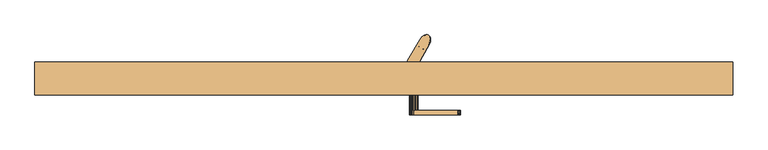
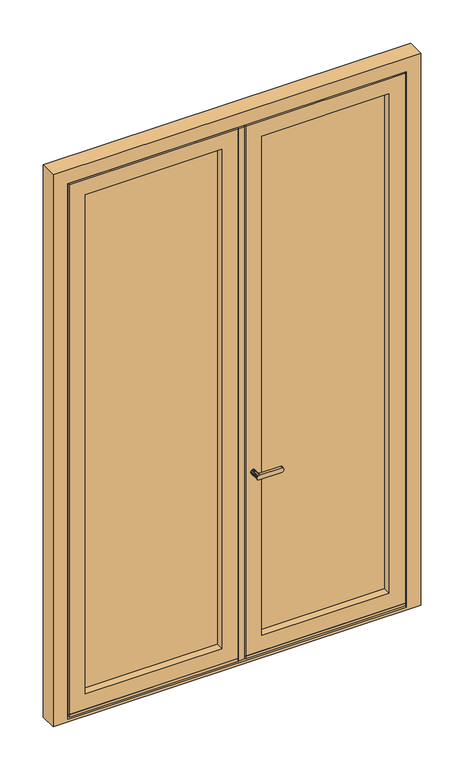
"""IFC4 building model written with IfcOpenShell, lengths in millimetres: door geometry, Porte vitrée bois - SAS ENTREE RDC 2x90."""

from ifc_helpers import new_model, si_unit, frame, origin, place, context, project, spatial, polyline, outline, extrude, faceted_brep, source, transform, mapped, element, save


def door_6c991e83(model_context):
    return source(origin(), model_context, "Body", "SolidModel", [
        faceted_brep([(997.0704527, 518.3, 3138.5), (997.0704527, 591.7, 3138.5), (997.0704527, 591.7, 178.5), (997.0704527, 518.3, 178.5), (976.5704527, 591.7, 3159.0), (976.5704527, 591.7, 158.0), (1876.5704527, 591.7, 158.0), (1876.5704527, 591.7, 3159.0), (1856.0704527, 591.7, 3138.5), (1856.0704527, 591.7, 178.5), (1856.0704527, 518.3, 178.5), (1856.0704527, 518.3, 3138.5), (1844.5704527, 518.3, 3127.0), (1844.5704527, 518.3, 190.0), (1008.5704527, 518.3, 190.0), (1008.5704527, 518.3, 3127.0), (1008.5704527, 510.0, 3127.0), (1008.5704527, 510.0, 190.0), (1844.5704527, 510.0, 190.0), (1844.5704527, 510.0, 3127.0), (1759.5704221, 510.0, 3041.9999695), (1759.5704221, 510.0, 275.0000305), (1093.5704832, 510.0, 275.0000305), (1093.5704832, 510.0, 3041.9999695), (1093.5704832, 551.0, 3041.9999695), (1093.5704832, 551.0, 275.0000305), (1759.5704221, 551.0, 275.0000305), (1774.5704527, 551.0, 3057.0), (1774.5704527, 551.0, 260.0), (1078.5704527, 551.0, 260.0), (1078.5704527, 551.0, 3057.0), (1759.5704221, 551.0, 3041.9999695), (1078.5704527, 589.0, 3057.0), (1078.5704527, 589.0, 260.0), (1774.5704527, 589.0, 260.0), (1774.5704527, 589.0, 3057.0), (1757.5704527, 589.0, 3040.0), (1757.5704527, 589.0, 277.0), (1095.5704527, 589.0, 277.0), (1095.5704527, 589.0, 3040.0), (1095.5704527, 600.0, 3040.0), (1095.5704527, 600.0, 277.0), (1757.5704527, 600.0, 277.0), (1876.5704527, 600.0, 3159.0), (1876.5704527, 600.0, 158.0), (976.5704527, 600.0, 158.0), (976.5704527, 600.0, 3159.0), (1757.5704527, 600.0, 3040.0)], [[[0, 1, 2, 3]], [[4, 5, 6, 7], [8, 9, 2, 1]], [[3, 2, 9, 10]], [[0, 3, 10, 11], [12, 13, 14, 15]], [[16, 15, 14, 17]], [[17, 14, 13, 18]], [[16, 17, 18, 19], [20, 21, 22, 23]], [[24, 23, 22, 25]], [[25, 22, 21, 26]], [[27, 28, 29, 30], [24, 25, 26, 31]], [[32, 30, 29, 33]], [[33, 29, 28, 34]], [[32, 33, 34, 35], [36, 37, 38, 39]], [[40, 39, 38, 41]], [[41, 38, 37, 42]], [[43, 44, 45, 46], [40, 41, 42, 47]], [[4, 46, 45, 5]], [[5, 45, 44, 6]], [[10, 9, 8, 11]], [[18, 13, 12, 19]], [[26, 21, 20, 31]], [[34, 28, 27, 35]], [[42, 37, 36, 47]], [[6, 44, 43, 7]], [[11, 8, 1, 0]], [[19, 12, 15, 16]], [[31, 20, 23, 24]], [[35, 27, 30, 32]], [[47, 36, 39, 40]], [[7, 43, 46, 4]]]),
        faceted_brep([(1063.5265531, 600.0, 243.5), (1063.5265531, 604.0, 243.5), (1029.6143522, 604.0, 243.5), (1029.6143522, 600.0, 243.5), (1063.5265531, 604.0, 213.5), (1029.6143522, 604.0, 213.5), (1063.5265531, 600.0, 209.5), (1063.5265531, 604.0, 209.5), (1029.6143522, 600.0, 209.5), (1029.6143522, 604.0, 209.5), (1089.9094475, 672.5301271, 213.5), (1087.3502106, 674.6325794, 213.5), (1084.2498152, 675.7977182, 213.5), (1080.7637281, 675.9671186, 213.5), (1077.0667564, 675.1322861, 213.5), (1073.3442817, 673.3350828, 213.5), (1069.7829643, 670.6656279, 213.5), (1066.5613838, 667.2577791, 213.5), (1063.8410835, 663.2824201, 213.5), (1089.2752383, 648.5980002, 213.5), (1091.3578518, 652.9415279, 213.5), (1092.698347, 657.4354221, 213.5), (1093.2295057, 661.8543403, 213.5), (1092.9246936, 665.9766994, 213.5), (1091.7991951, 669.5957871, 213.5), (1063.8410835, 663.2824201, 209.5), (1066.5613838, 667.2577791, 209.5), (1069.7829643, 670.6656279, 209.5), (1073.3442817, 673.3350828, 209.5), (1077.0667564, 675.1322861, 209.5), (1080.7637281, 675.9671186, 209.5), (1084.2498152, 675.7977182, 209.5), (1087.3502106, 674.6325794, 209.5), (1089.9094475, 672.5301271, 209.5), (1091.7991951, 669.5957871, 209.5), (1092.9246936, 665.9766994, 209.5), (1093.2295057, 661.8543403, 209.5), (1092.698347, 657.4354221, 209.5), (1091.3578518, 652.9415279, 209.5), (1089.2752383, 648.5980002, 209.5), (1063.8410835, 663.2824201, 211.9099144), (1089.2752383, 648.5980002, 211.0900853), (1090.9447816, 671.1586471, 211.5), (1078.9301579, 675.6737832, 211.5), (1093.2150104, 661.4468941, 211.5)], [[[0, 1, 2, 3]], [[4, 5, 2, 1]], [[6, 7, 4, 1, 0]], [[8, 6, 0, 3]], [[9, 8, 3, 2, 5]], [[10, 11, 12, 13, 14, 15, 16, 17, 18, 5, 4, 19, 20, 21, 22, 23, 24]], [[6, 8, 9, 25, 26, 27, 28, 29, 30, 31, 32, 33, 34, 35, 36, 37, 38, 39, 7]], [[9, 5, 18, 40, 25]], [[7, 39, 41, 19, 4]], [[40, 18, 17]], [[26, 25, 40]], [[24, 42, 10]], [[43, 27, 40]], [[40, 27, 26]], [[43, 30, 29]], [[15, 43, 16]], [[13, 43, 14]], [[32, 31, 43]], [[41, 39, 38]], [[20, 19, 41]], [[28, 43, 29]], [[17, 16, 40]], [[31, 30, 43]], [[35, 34, 42]], [[28, 27, 43]], [[20, 41, 44]], [[15, 14, 43]], [[13, 12, 43]], [[40, 16, 43]], [[11, 43, 12]], [[32, 43, 42]], [[34, 33, 42]], [[35, 44, 36]], [[38, 37, 41]], [[37, 44, 41]], [[36, 44, 37]], [[44, 21, 20]], [[42, 43, 11]], [[32, 42, 33]], [[42, 11, 10]], [[23, 42, 24]], [[44, 42, 23]], [[35, 42, 44]], [[23, 22, 44]], [[22, 21, 44]]]),
        faceted_brep([(168.0000305, 551.0, 3041.9999695), (168.0000305, 510.0, 3041.9999695), (168.0000305, 510.0, 275.0000305), (168.0000305, 551.0, 275.0000305), (83.0, 510.0, 3127.0), (83.0, 510.0, 190.0), (969.5704527, 510.0, 190.0), (969.5704527, 510.0, 3127.0), (884.5704221, 510.0, 3041.9999695), (884.5704221, 510.0, 275.0000305), (884.5704221, 551.0, 275.0000305), (153.0, 551.0, 260.0), (153.0, 551.0, 3057.0), (899.5704527, 551.0, 3057.0), (899.5704527, 551.0, 260.0), (884.5704221, 551.0, 3041.9999695), (153.0, 589.0, 3057.0), (153.0, 589.0, 260.0), (899.5704527, 589.0, 260.0), (899.5704527, 589.0, 3057.0), (170.0, 589.0, 277.0), (170.0, 589.0, 3040.0), (882.5704527, 589.0, 3040.0), (882.5704527, 589.0, 277.0), (170.0, 600.0, 3040.0), (170.0, 600.0, 277.0), (882.5704527, 600.0, 277.0), (51.0, 600.0, 158.0), (51.0, 600.0, 3159.0), (969.5704527, 600.0, 3159.0), (969.5704527, 600.0, 158.0), (882.5704527, 600.0, 3040.0), (51.0, 591.7, 3159.0), (51.0, 591.7, 158.0), (969.5704527, 591.7, 158.0), (969.5704527, 591.7, 178.5), (71.5, 591.7, 178.5), (71.5, 591.7, 3138.5), (969.5704527, 591.7, 3138.5), (969.5704527, 591.7, 3159.0), (71.5, 518.3, 3138.5), (71.5, 518.3, 178.5), (981.0704527, 591.7, 178.5), (981.0704527, 518.3, 178.5), (981.0704527, 518.3, 3138.5), (83.0, 518.3, 190.0), (83.0, 518.3, 3127.0), (969.5704527, 518.3, 3127.0), (969.5704527, 518.3, 190.0), (981.0704527, 591.7, 3138.5)], [[[0, 1, 2, 3]], [[4, 5, 6, 7], [2, 1, 8, 9]], [[3, 2, 9, 10]], [[11, 12, 13, 14], [0, 3, 10, 15]], [[16, 12, 11, 17]], [[17, 11, 14, 18]], [[16, 17, 18, 19], [20, 21, 22, 23]], [[24, 21, 20, 25]], [[25, 20, 23, 26]], [[27, 28, 29, 30], [24, 25, 26, 31]], [[32, 28, 27, 33]], [[33, 27, 30, 34]], [[32, 33, 34, 35, 36, 37, 38, 39]], [[40, 37, 36, 41]], [[41, 36, 35, 42, 43]], [[40, 41, 43, 44], [45, 46, 47, 48]], [[4, 46, 45, 5]], [[5, 45, 48, 6]], [[10, 9, 8, 15]], [[18, 14, 13, 19]], [[26, 23, 22, 31]], [[43, 42, 49, 44]], [[1, 0, 15, 8]], [[12, 16, 19, 13]], [[21, 24, 31, 22]], [[28, 32, 39, 29]], [[37, 40, 44, 49, 38]], [[46, 4, 7, 47]], [[38, 35, 34, 30, 29, 39]], [[35, 38, 49, 42]], [[6, 48, 47, 7]]]),
        faceted_brep([(1851.5704527, 510.0, 3134.0), (1851.5704527, 518.3, 3134.0), (1851.5704527, 518.3, 167.8651688), (1851.5704527, 510.0, 165.0072496), (76.0, 518.3, 3134.0), (76.0, 518.3, 167.8651688), (55.5, 518.3, 167.8651688), (55.5, 518.3, 3154.5), (1872.0704527, 518.3, 3154.5), (1872.0704527, 518.3, 167.8651688), (1872.0704527, 591.7, 3154.5), (1872.0704527, 591.7, 164.3), (1872.0704527, 532.0, 164.3), (1872.0704527, 532.0, 170.0), (1872.0704527, 524.5, 170.0), (1883.5704527, 599.9993365, 150.0), (1883.5704527, 591.7, 150.0), (1883.5704527, 591.7, 3166.0), (1883.5704527, 599.9993365, 3166.0), (1927.5704527, 599.9993365, 150.0), (44.0, 599.9993365, 3166.0), (44.0, 599.9993365, 150.0), (0.0, 599.9993365, 150.0), (0.0, 599.9993365, 3210.0), (1927.5704527, 599.9993365, 3210.0), (76.0, 510.0, 3134.0), (76.0, 510.0, 165.0072496), (44.0, 591.7, 3166.0), (44.0, 591.7, 150.0), (55.5, 591.7, 3154.5), (55.5, 524.5, 170.0), (55.5, 532.0, 170.0), (55.5, 532.0, 164.3), (55.5, 591.7, 164.3), (0.0, 510.0, 3210.0), (1927.5704527, 510.0, 3210.0), (1927.5704527, 510.0, 150.0), (0.0, 510.0, 150.0)], [[[0, 1, 2, 3]], [[1, 4, 5, 6, 7, 8, 9, 2]], [[8, 10, 11, 12, 13, 14, 9]], [[15, 16, 17, 18]], [[19, 15, 18, 20, 21, 22, 23, 24]], [[4, 25, 26, 5]], [[20, 27, 28, 21]], [[29, 7, 6, 30, 31, 32, 33]], [[25, 4, 1, 0]], [[27, 20, 18, 17]], [[23, 34, 35, 24]], [[8, 7, 29, 10]], [[19, 24, 35, 36]], [[34, 23, 22, 37]], [[35, 34, 37, 36], [25, 0, 3, 26]], [[16, 15, 19, 36, 37, 22, 21, 28]], [[14, 30, 6, 5, 26, 3, 2, 9]], [[27, 17, 16, 28], [11, 10, 29, 33]], [[32, 12, 11, 33]], [[12, 32, 31, 13]], [[13, 31, 30, 14]]]),
        faceted_brep([(1029.6143522, 600.0, 3073.5), (1029.6143522, 604.0, 3073.5), (1063.5265531, 604.0, 3073.5), (1063.5265531, 600.0, 3073.5), (1029.6143522, 604.0, 3103.5), (1063.5265531, 604.0, 3103.5), (1063.5265531, 604.0, 3107.5), (1063.5265531, 600.0, 3107.5), (1029.6143522, 600.0, 3107.5), (1029.6143522, 604.0, 3107.5), (1063.8410862, 663.2824248, 3103.5), (1066.5613869, 667.257783, 3103.5), (1069.7829676, 670.6656309, 3103.5), (1073.3442849, 673.3350848, 3103.5), (1077.0667594, 675.1322872, 3103.5), (1080.7637307, 675.9671188, 3103.5), (1084.2498173, 675.7977178, 3103.5), (1087.3502122, 674.6325784, 3103.5), (1089.9094486, 672.5301259, 3103.5), (1091.7991957, 669.5957857, 3103.5), (1092.9246939, 665.9766982, 3103.5), (1093.2295057, 661.8543393, 3103.5), (1092.6983468, 657.4354214, 3103.5), (1091.3578516, 652.9415275, 3103.5), (1089.2752383, 648.5980002, 3103.5), (1089.9094486, 672.5301259, 3107.5), (1087.3502122, 674.6325784, 3107.5), (1084.2498173, 675.7977178, 3107.5), (1080.7637307, 675.9671188, 3107.5), (1077.0667594, 675.1322872, 3107.5), (1073.3442849, 673.3350848, 3107.5), (1069.7829676, 670.6656309, 3107.5), (1066.5613869, 667.257783, 3107.5), (1063.8410862, 663.2824248, 3107.5), (1089.2752383, 648.5980002, 3107.5), (1091.3578516, 652.9415275, 3107.5), (1092.6983468, 657.4354214, 3107.5), (1093.2295057, 661.8543393, 3107.5), (1092.9246939, 665.9766982, 3107.5), (1091.7991957, 669.5957857, 3107.5), (1063.8410862, 663.2824248, 3105.9099144), (1089.2752383, 648.5980002, 3105.0900854), (1090.9447824, 671.1586458, 3105.5), (1078.9301608, 675.6737838, 3105.5), (1093.2150103, 661.4468931, 3105.5)], [[[0, 1, 2, 3]], [[2, 1, 4, 5]], [[3, 2, 5, 6, 7]], [[0, 3, 7, 8]], [[1, 0, 8, 9, 4]], [[5, 4, 10, 11, 12, 13, 14, 15, 16, 17, 18, 19, 20, 21, 22, 23, 24]], [[25, 26, 27, 28, 29, 30, 31, 32, 33, 9, 8, 7, 6, 34, 35, 36, 37, 38, 39]], [[4, 9, 33, 40, 10]], [[5, 24, 41, 34, 6]], [[40, 33, 32]], [[11, 10, 40]], [[39, 42, 25]], [[43, 12, 40]], [[40, 12, 11]], [[43, 15, 14]], [[30, 43, 31]], [[28, 43, 29]], [[17, 16, 43]], [[41, 24, 23]], [[35, 34, 41]], [[13, 43, 14]], [[32, 31, 40]], [[16, 15, 43]], [[20, 19, 42]], [[13, 12, 43]], [[35, 41, 44]], [[30, 29, 43]], [[28, 27, 43]], [[40, 31, 43]], [[26, 43, 27]], [[17, 43, 42]], [[19, 18, 42]], [[20, 44, 21]], [[23, 22, 41]], [[22, 44, 41]], [[21, 44, 22]], [[44, 36, 35]], [[42, 43, 26]], [[17, 42, 18]], [[42, 26, 25]], [[38, 42, 39]], [[44, 42, 38]], [[20, 42, 44]], [[38, 37, 44]], [[37, 36, 44]]]),
        extrude(outline(polyline([(1078.5704527, 589.0), (1774.5704527, 589.0), (1774.5704527, 551.0), (1078.5704527, 551.0), (1078.5704527, 589.0)])), frame((0.0, 0.0, 260.0), z_axis=(0.0, 0.0, 1.0), x_axis=(1.0, 0.0, 0.0)), (0.0, 0.0, 1.0), 2797.0),
        faceted_brep([(1091.7991957, 669.5957857, 3103.5), (1089.9094486, 672.5301259, 3103.5), (1087.3502122, 674.6325784, 3103.5), (1084.2498173, 675.7977178, 3103.5), (1080.7637307, 675.9671188, 3103.5), (1077.0667594, 675.1322872, 3103.5), (1073.3442849, 673.3350848, 3103.5), (1069.7829676, 670.6656309, 3103.5), (1066.5613869, 667.257783, 3103.5), (1063.8410862, 663.2824248, 3103.5), (1061.7584728, 658.9388975, 3103.5), (1060.4179777, 654.4450036, 3103.5), (1059.8868187, 650.0260857, 3103.5), (1060.1916306, 645.9037268, 3103.5), (1061.3171287, 642.2846393, 3103.5), (1063.2068759, 639.3502991, 3103.5), (1065.7661123, 637.2478466, 3103.5), (1068.8665071, 636.0827073, 3103.5), (1072.3525937, 635.9133062, 3103.5), (1076.049565, 636.7481378, 3103.5), (1079.7720396, 638.5453402, 3103.5), (1083.3333568, 641.2147941, 3103.5), (1086.5549376, 644.622642, 3103.5), (1089.2752383, 648.5980002, 3103.5), (1091.3578516, 652.9415275, 3103.5), (1092.6983468, 657.4354214, 3103.5), (1093.2295057, 661.8543393, 3103.5), (1092.9246939, 665.9766982, 3103.5), (1068.8665071, 636.0827073, 213.5), (1065.7661123, 637.2478466, 213.5), (1063.2068759, 639.3502991, 213.5), (1061.3171287, 642.2846393, 213.5), (1060.1916306, 645.9037268, 213.5), (1059.8868187, 650.0260857, 213.5), (1060.4179777, 654.4450036, 213.5), (1061.7584728, 658.9388975, 213.5), (1063.8410862, 663.2824248, 213.5), (1066.5613869, 667.257783, 213.5), (1069.7829676, 670.6656309, 213.5), (1073.3442849, 673.3350848, 213.5), (1077.0667594, 675.1322872, 213.5), (1080.7637307, 675.9671188, 213.5), (1084.2498173, 675.7977178, 213.5), (1087.3502122, 674.6325784, 213.5), (1089.9094486, 672.5301259, 213.5), (1091.7991957, 669.5957857, 213.5), (1092.9246939, 665.9766982, 213.5), (1093.2295057, 661.8543393, 213.5), (1092.6983468, 657.4354214, 213.5), (1091.3578516, 652.9415275, 213.5), (1089.2752383, 648.5980002, 213.5), (1086.5549376, 644.622642, 213.5), (1083.3333568, 641.2147941, 213.5), (1079.7720396, 638.5453402, 213.5), (1076.049565, 636.7481378, 213.5), (1072.3525937, 635.9133062, 213.5), (1087.1209854, 674.7609343, 3039.7612202), (1092.4619452, 667.8611962, 306.3237695), (1089.2752383, 648.5980002, 304.783489), (1078.9301597, 675.6737836, 3010.676228), (1078.9301582, 675.6737832, 297.4293988), (1085.8584944, 675.3371113, 368.0172447), (1073.8975018, 673.6633417, 369.3240477), (1080.3292739, 675.9198052, 446.6944318), (1088.7062148, 673.6929778, 2948.98274), (1093.2371765, 662.4975723, 2947.6759605), (1091.9806862, 669.1834463, 2875.4794892), (1086.2481362, 675.18144, 2387.972511), (1074.4721885, 673.9813242, 2433.366327), (1086.1883162, 675.2065607, 2478.1094389), (1089.2752383, 648.5980002, 3012.216511), (1063.8410862, 663.2824248, 3012.2165139), (1063.8410862, 663.2824248, 304.7834917), (1076.4602559, 674.90456, 2922.0327645), (1089.2752383, 648.5980002, 396.066978), (1093.0307284, 665.3375828, 394.9672499), (1087.5759854, 674.4982397, 277.2387736), (1077.0266332, 675.1179974, 1435.6433105), (1063.8410862, 663.2824248, 1400.1853585), (1063.8410862, 663.2824248, 1479.816978), (1063.8410862, 663.2824248, 1491.4688445), (1085.5101202, 675.4609039, 526.5775533), (1090.3785717, 671.9617113, 459.8390978), (1075.2369264, 674.3686784, 2789.8337304), (1085.0821002, 675.5941609, 2731.5722903), (1074.3099418, 673.8939051, 2701.4632106), (1092.4619444, 667.8611986, 3019.5705949), (1063.8410862, 663.2824248, 943.7679112), (1074.9719462, 674.2390529, 991.9541054), (1075.7221037, 674.5934845, 898.1262183), (1063.8410862, 663.2824248, 2920.9330222), (1063.8410862, 663.2824248, 2746.1339598), (1063.8410862, 663.2824248, 2829.649533), (1063.8410862, 663.2824248, 2833.533491), (1091.0038999, 671.0659174, 753.748835), (1093.2104353, 663.5037097, 806.8427277), (1093.2054769, 661.2518328, 715.5592395), (1087.8126466, 674.3485788, 2283.8905959), (1090.0835429, 672.3281065, 2186.2171541), (1075.8077605, 674.6314948, 2242.6546305), (1076.4110471, 674.8849811, 1613.8704529), (1088.4363082, 673.9071638, 1569.1585234), (1076.8220603, 675.0434335, 1517.9321883), (1093.1769016, 664.0285127, 2607.3749737), (1086.6511666, 675.0001544, 2567.4509478), (1087.1020652, 674.771178, 2656.7924568), (1088.4625465, 673.8869902, 938.4578574), (1087.3502122, 674.6325784, 1035.0514496), (1093.2362974, 662.2320884, 1881.8538044), (1089.2752383, 648.5980002, 1926.524533), (1089.2752383, 648.5980002, 1852.7188463), (1089.2752383, 648.5980002, 1837.183022), (1075.6623682, 674.5666791, 1085.9473652), (1078.3011062, 675.517869, 1168.8726905), (1088.5387979, 673.8275832, 1125.837811), (1088.6286842, 673.7560369, 1300.8775569), (1093.2283694, 663.0537925, 1256.4632408), (1088.4850519, 673.8695777, 1212.7139165), (1088.4363083, 673.9071638, 1658.5823811), (1087.8126467, 674.3485788, 1747.8415416), (1093.2162113, 663.3830403, 1705.6035919), (1093.2372442, 662.4091556, 2149.8783316), (1089.2752383, 648.5980002, 2194.5490659), (1089.2752383, 648.5980002, 2120.7433801), (1089.2752383, 648.5980002, 2105.2075549), (1074.6748041, 674.0879095, 1899.8226875), (1074.4624677, 673.9761385, 1808.0481216), (1063.8410862, 663.2824248, 1852.7188452), (1075.0361549, 674.2709086, 2612.1217017), (1093.2339742, 662.8128215, 1527.5583067), (1089.2752383, 648.5980002, 1569.158489), (1089.2752383, 648.5980002, 1491.4688485), (1089.2752383, 648.5980002, 1479.816978), (1086.895396, 674.879689, 1844.8045559), (1093.170584, 664.1083165, 1797.4267243), (1074.4655794, 673.9777992, 2522.7801928), (1063.8410862, 663.2824248, 2478.1094254), (1084.2135006, 675.8050118, 2868.0801076), (1088.5717657, 673.8015344, 2802.6217509), (1087.5327094, 674.5246154, 1475.3268617), (1063.8410862, 663.2824248, 852.4844195), (1089.2752383, 648.5980002, 1301.133956), (1089.2752383, 648.5980002, 1217.6183797), (1089.2752383, 648.5980002, 1211.7924451), (1074.9612481, 674.2337175, 1718.7066128), (1063.8410862, 663.2824248, 1763.3773338), (1093.2128573, 663.4549077, 2418.8738478), (1093.2115617, 663.481305, 2327.1169999), (1076.1879995, 674.7941617, 1263.2601666), (1063.8410862, 663.2824248, 1217.618375), (1063.8410862, 663.2824248, 1301.133956), (1063.8410862, 663.2824248, 1308.9018668), (1089.2752383, 648.5980002, 2373.2320879), (1063.8410862, 663.2824248, 1582.7523306), (1063.8410862, 663.2824248, 1658.5), (1063.8410862, 663.2824248, 1674.0358223), (1093.1881572, 663.8747832, 1077.7802226), (1093.225349, 663.1502613, 1167.1147796), (1093.212149, 663.4694262, 1349.0545448), (1093.1594418, 664.240021, 2510.1573349), (1089.2752383, 648.5980002, 2464.5155769), (1073.6679907, 673.5298181, 2076.0726483), (1075.3257706, 674.4110552, 1991.6458261), (1063.8410862, 663.2824248, 2031.4018682), (1089.8475711, 672.5995764, 682.8588012), (1089.2752383, 648.5980002, 578.633956), (1093.1612269, 664.219614, 532.9922607), (1093.2247016, 663.1692553, 621.3637247), (1087.5943164, 674.4869765, 1390.4755053), (1093.1421427, 664.4263296, 1441.7482187), (1093.1846099, 660.907579, 460.8624964), (1089.2752383, 648.5980002, 487.350467), (1074.2396743, 673.8554716, 511.4648929), (1070.6098057, 671.3765494, 453.7451278), (1088.2994022, 674.0102415, 603.806908), (1089.2752383, 648.5980002, 669.9174451), (1087.3502121, 674.6325785, 841.8642654), (1093.2332204, 662.8535427, 898.126215), (1077.2057235, 675.1809238, 659.1547405), (1072.1308721, 672.5368909, 806.8427306), (1073.9355212, 673.6850987, 2856.6324745), (1077.8905671, 675.4012707, 583.1880996), (1063.8410862, 663.2824248, 2656.7924484), (1063.8410862, 663.2824248, 2738.366044), (1093.149763, 664.3466495, 2699.940621), (1092.8753504, 658.3587256, 2866.1656853), (1093.234926, 662.7539259, 2807.3986574), (1063.8410862, 663.2824248, 2567.4509369), (1063.8410862, 663.2824248, 2647.0825549), (1063.8410862, 663.2824248, 2388.767914), (1063.8410862, 663.2824248, 2464.5155769), (1075.3191999, 674.4079398, 2334.4675158), (1063.8410862, 663.2824248, 2210.0848911), (1063.8410862, 663.2824248, 2283.8905769), (1063.8410862, 663.2824248, 2299.4264025), (1089.2752383, 648.5980002, 2388.7679138), (1089.2752383, 648.5980002, 2555.7990659), (1089.2752383, 648.5980002, 2478.1094232), (1089.2752383, 648.5980002, 2738.366044), (1089.2752383, 648.5980002, 2656.7924475), (1089.2752383, 648.5980002, 2647.0825549), (1093.1783644, 664.0094265, 2235.3144708), (1089.2752383, 648.5980002, 2283.8905769), (1090.5492227, 671.7345832, 2121.0154935), (1063.8410862, 663.2824248, 578.6339556), (1071.8864186, 672.3627096, 2165.4141571), (1063.8410862, 663.2824248, 2120.7433796), (1063.8410862, 663.2824248, 2194.5490659), (1092.2974639, 668.3594205, 2060.5368228), (1089.2752383, 648.5980002, 2031.4018707), (1089.2752383, 648.5980002, 2015.866044), (1093.199264, 663.7039869, 1971.1953135), (1084.5993621, 675.7208451, 2041.9850456), (1063.8410862, 663.2824248, 2555.7990659), (1089.2752383, 648.5980002, 2210.0848951), (1089.2752383, 648.5980002, 2299.4264044), (1089.2752383, 648.5980002, 1033.1094231), (1093.225326, 663.1509445, 988.4387133), (1089.2752383, 648.5980002, 2567.4509325), (1063.8410862, 663.2824248, 396.0669778), (1089.2752383, 648.5980002, 2829.649533), (1089.2752383, 648.5980002, 2920.933022), (1089.2752383, 648.5980002, 2746.1339569), (1089.2752383, 648.5980002, 761.2009341), (1082.935426, 675.9831179, 2138.6482318), (1071.3615587, 671.9730561, 719.6075288), (1063.8410862, 663.2824248, 669.9174473), (1081.0963306, 675.9937381, 754.3114731), (1063.8410862, 663.2824248, 761.2009334), (1089.2752383, 648.5980002, 852.4844231), (1089.2752383, 648.5980002, 943.7679121), (1063.8410862, 663.2824248, 1035.0514029), (1063.8410862, 663.2824248, 1126.334889), (1063.8410862, 663.2824248, 1211.7924451), (1074.7954478, 674.1500152, 1354.5436536), (1063.8410862, 663.2824248, 1390.475467), (1089.2752383, 648.5980002, 1122.4509341), (1089.2752383, 648.5980002, 1035.0514006), (1063.8410862, 663.2824248, 1122.4509341), (1063.8410862, 663.2824248, 1033.1094231), (1089.2752383, 648.5980002, 1126.3348901), (1089.2752383, 648.5980002, 1400.1853589), (1089.2752383, 648.5980002, 1390.475467), (1093.2256812, 663.1403125, 1613.8292772), (1089.2752383, 648.5980002, 1308.9018693), (1089.2752383, 648.5980002, 1658.5), (1089.2752383, 648.5980002, 1582.752338), (1089.2752383, 648.5980002, 1763.377337), (1089.2752383, 648.5980002, 1747.841511), (1063.8410862, 663.2824248, 1569.158489), (1089.2752383, 648.5980002, 1942.0603613), (1063.8410862, 663.2824248, 1747.841511), (1086.8730441, 674.891059, 1942.0603856), (1063.8410862, 663.2824248, 1837.183022), (1063.8410862, 663.2824248, 1942.0603567), (1063.8410862, 663.2824248, 2105.2075549), (1089.2752383, 648.5980002, 1674.0358276), (1063.8410862, 663.2824248, 2015.866044), (1063.8410862, 663.2824248, 1926.524533), (1063.8410862, 663.2824248, 487.3504639), (1063.8410862, 663.2824248, 2373.2320879), (1089.2752383, 648.5980002, 2833.5334917), (1065.9953391, 637.1194907, 3039.7612202), (1060.6543793, 644.0192288, 306.3237695), (1074.1861648, 636.2066414, 3010.676228), (1074.1861662, 636.2066418, 297.4293988), (1067.2578301, 636.5433137, 368.0172447), (1079.2188227, 638.2170833, 369.3240477), (1072.7870506, 635.9606198, 446.6944318), (1064.4101097, 638.1874472, 2948.98274), (1059.8791479, 649.3828527, 2947.6759605), (1061.1356383, 642.6969787, 2875.4794892), (1066.8681882, 636.698985, 2387.972511), (1078.644136, 637.8991008, 2433.366327), (1066.9280082, 636.6738643, 2478.1094389), (1076.6560685, 636.975865, 2922.0327645), (1060.0855961, 646.5428422, 394.9672499), (1065.5403391, 637.3821853, 277.2387736), (1076.0896912, 636.7624276, 1435.6433105), (1067.6062043, 636.4195211, 526.5775533), (1062.7377527, 639.9187137, 459.8390978), (1077.8793981, 637.5117466, 2789.8337304), (1068.0342243, 636.2862641, 2731.5722903), (1078.8063827, 637.9865199, 2701.4632106), (1060.65438, 644.0192264, 3019.5705949), (1078.1443782, 637.6413721, 991.9541054), (1077.3942208, 637.2869405, 898.1262183), (1062.1124246, 640.8145076, 753.748835), (1059.9058892, 648.3767153, 806.8427277), (1059.9108476, 650.6285922, 715.5592395), (1065.3036778, 637.5318462, 2283.8905959), (1063.0327816, 639.5523186, 2186.2171541), (1077.308564, 637.2489302, 2242.6546305), (1076.7052774, 636.9954439, 1613.8704529), (1064.6800163, 637.9732612, 1569.1585234), (1076.2942642, 636.8369915, 1517.9321883), (1059.9394228, 647.8519123, 2607.3749737), (1066.4651579, 636.8802706, 2567.4509478), (1066.0142593, 637.109247, 2656.7924568), (1064.653778, 637.9934348, 938.4578574), (1065.7661122, 637.2478466, 1035.0514496), (1059.880027, 649.6483366, 1881.8538044), (1077.4539563, 637.3137459, 1085.9473652), (1074.8152182, 636.362556, 1168.8726905), (1064.5775265, 638.0528418, 1125.837811), (1064.4876403, 638.1243881, 1300.8775569), (1059.8879551, 648.8266325, 1256.4632408), (1064.6312726, 638.0108473, 1212.7139165), (1064.6800162, 637.9732612, 1658.5823811), (1065.3036778, 637.5318462, 1747.8415416), (1059.9001132, 648.4973847, 1705.6035919), (1059.8790802, 649.4712695, 2149.8783316), (1078.4415204, 637.7925155, 1899.8226875), (1078.6538568, 637.9042865, 1808.0481216), (1078.0801695, 637.6095164, 2612.1217017), (1059.8823503, 649.0676035, 1527.5583067), (1066.2209284, 637.000736, 1844.8045559), (1059.9457405, 647.7721085, 1797.4267243), (1078.650745, 637.9026258, 2522.7801928), (1068.9028238, 636.0754132, 2868.0801076), (1064.5445587, 638.0788906, 2802.6217509), (1065.5836151, 637.3558096, 1475.3268617), (1078.1550763, 637.6467075, 1718.7066128), (1059.9034672, 648.4255173, 2418.8738478), (1059.9047627, 648.39912, 2327.1169999), (1076.928325, 637.0862633, 1263.2601666), (1059.9281672, 648.0056418, 1077.7802226), (1059.8909754, 648.7301637, 1167.1147796), (1059.9041755, 648.4109988, 1349.0545448), (1059.9568826, 647.640404, 2510.1573349), (1079.4483337, 638.3506069, 2076.0726483), (1077.7905539, 637.4693698, 1991.6458261), (1063.2687534, 639.2808486, 682.8588012), (1059.9550976, 647.660811, 532.9922607), (1059.8916228, 648.7111697, 621.3637247), (1065.5220081, 637.3934485, 1390.4755053), (1059.9741817, 647.4540954, 1441.7482187), (1059.9317145, 650.972846, 460.8624964), (1078.8766501, 638.0249534, 511.4648929), (1082.5065187, 640.5038756, 453.7451278), (1064.8169223, 637.8701835, 603.806908), (1065.7661124, 637.2478465, 841.8642654), (1059.8831041, 649.0268823, 898.126215), (1075.910601, 636.6995012, 659.1547405), (1080.9854524, 639.3435341, 806.8427306), (1079.1808033, 638.1953263, 2856.6324745), (1075.2257574, 636.4791543, 583.1880996), (1059.9665615, 647.5337755, 2699.940621), (1060.240974, 653.5216994, 2866.1656853), (1059.8813985, 649.1264991, 2807.3986574), (1077.7971246, 637.4724852, 2334.4675158), (1059.9379601, 647.8709985, 2235.3144708), (1062.5671018, 640.1458418, 2121.0154935), (1081.2299058, 639.5177154, 2165.4141571), (1060.8188606, 643.5210045, 2060.5368228), (1059.9170605, 648.1764381, 1971.1953135), (1068.5169624, 636.1595799, 2041.9850456), (1059.8909984, 648.7294805, 988.4387133), (1070.1808985, 635.8973071, 2138.6482318), (1081.7547658, 639.9073689, 719.6075288), (1072.0199938, 635.8866869, 754.3114731), (1078.3208766, 637.7304098, 1354.5436536), (1059.8906433, 648.7401125, 1613.8292772), (1066.2432803, 636.989366, 1942.0603856)], [[[0, 1, 2, 3, 4, 5, 6, 7, 8, 9, 10, 11, 12, 13, 14, 15, 16, 17, 18, 19, 20, 21, 22, 23, 24, 25, 26, 27]], [[28, 29, 30, 31, 32, 33, 34, 35, 36, 37, 38, 39, 40, 41, 42, 43, 44, 45, 46, 47, 48, 49, 50, 51, 52, 53, 54, 55]], [[2, 1, 56]], [[57, 58, 48]], [[59, 7, 6]], [[5, 4, 59]], [[38, 60, 39]], [[61, 62, 63]], [[4, 3, 56]], [[64, 65, 66]], [[40, 60, 41]], [[67, 68, 69]], [[24, 23, 70]], [[58, 50, 49]], [[71, 9, 8]], [[37, 36, 72]], [[73, 59, 64]], [[60, 40, 39]], [[74, 58, 75]], [[45, 76, 57]], [[77, 78, 79, 80]], [[71, 8, 7]], [[63, 81, 82]], [[83, 84, 85]], [[25, 86, 26]], [[24, 70, 25]], [[87, 88, 89]], [[75, 58, 57]], [[72, 62, 60]], [[5, 59, 6]], [[90, 71, 73]], [[70, 65, 86]], [[42, 41, 76]], [[46, 57, 47]], [[83, 91, 92, 93]], [[94, 95, 96]], [[43, 42, 76]], [[97, 98, 99]], [[86, 27, 26]], [[100, 101, 102]], [[4, 56, 59]], [[64, 56, 86]], [[103, 104, 105]], [[46, 45, 57]], [[58, 49, 48]], [[76, 41, 60]], [[59, 71, 7]], [[45, 44, 76]], [[56, 1, 0]], [[75, 57, 61]], [[61, 76, 60]], [[27, 86, 0]], [[47, 57, 48]], [[37, 72, 38]], [[106, 88, 107]], [[0, 86, 56]], [[38, 72, 60]], [[73, 71, 59]], [[64, 86, 65]], [[61, 60, 62]], [[25, 70, 86]], [[108, 109, 110, 111]], [[112, 113, 114]], [[115, 116, 117]], [[118, 119, 120]], [[121, 122, 123, 124]], [[125, 126, 127]], [[105, 104, 128]], [[129, 130, 131, 132]], [[133, 134, 119]], [[135, 68, 136]], [[137, 66, 138]], [[139, 101, 129]], [[89, 140, 87]], [[116, 141, 142, 143]], [[126, 144, 145]], [[146, 147, 67]], [[148, 149, 150, 151]], [[152, 147, 146]], [[134, 120, 119]], [[100, 153, 154, 155]], [[156, 114, 157]], [[116, 115, 158]], [[146, 159, 160]], [[161, 162, 163]], [[96, 164, 94]], [[165, 166, 167]], [[68, 135, 69]], [[104, 103, 159]], [[100, 144, 118]], [[168, 169, 158]], [[170, 171, 74]], [[172, 63, 173]], [[165, 171, 166]], [[167, 166, 174]], [[175, 167, 96]], [[166, 170, 82]], [[82, 81, 166]], [[176, 177, 95]], [[178, 164, 174]], [[176, 179, 89]], [[180, 93, 90]], [[181, 178, 174]], [[85, 182, 183, 91]], [[105, 184, 103]], [[66, 185, 186]], [[91, 83, 85]], [[180, 137, 83]], [[137, 138, 83]], [[187, 128, 135]], [[128, 187, 188, 182]], [[85, 84, 105]], [[85, 128, 182]], [[128, 85, 105]], [[68, 189, 190, 136]], [[69, 135, 104]], [[189, 68, 191]], [[67, 191, 68]], [[99, 192, 193, 194]], [[191, 99, 194]], [[67, 97, 191]], [[146, 160, 195, 152]], [[103, 196, 159]], [[159, 196, 197, 160]], [[67, 69, 146]], [[184, 198, 199, 200]], [[103, 184, 200]], [[159, 146, 69]], [[97, 67, 147]], [[97, 147, 201]], [[147, 202, 201]], [[97, 99, 191]], [[121, 203, 98]], [[181, 204, 178]], [[205, 206, 207, 192]], [[208, 124, 209, 210]], [[122, 121, 201]], [[208, 211, 212]], [[135, 136, 213, 187]], [[128, 104, 135]], [[159, 69, 104]], [[201, 202, 214, 122]], [[147, 152, 215, 202]], [[201, 121, 98]], [[216, 217, 156]], [[157, 116, 143]], [[121, 124, 208]], [[73, 64, 137]], [[138, 184, 84]], [[103, 200, 218, 196]], [[172, 81, 63]], [[219, 62, 72]], [[75, 61, 82]], [[62, 173, 63]], [[172, 181, 81]], [[186, 185, 220]], [[221, 65, 70]], [[198, 184, 186]], [[65, 185, 66]], [[186, 138, 66]], [[138, 186, 184]], [[186, 220, 222, 198]], [[96, 223, 175]], [[164, 167, 174]], [[175, 165, 167]], [[192, 99, 205]], [[224, 99, 98]], [[63, 82, 61]], [[170, 75, 82]], [[225, 178, 226]], [[81, 174, 166]], [[178, 227, 164]], [[174, 81, 181]], [[226, 178, 204]], [[140, 179, 228]], [[227, 178, 225]], [[176, 89, 106]], [[225, 228, 179]], [[88, 106, 89]], [[229, 223, 95]], [[216, 230, 217]], [[177, 229, 95]], [[229, 177, 230]], [[94, 227, 176]], [[107, 88, 112]], [[88, 231, 112]], [[107, 112, 114]], [[113, 232, 233, 149]], [[117, 148, 115]], [[232, 113, 112]], [[234, 151, 235, 78]], [[236, 156, 157]], [[156, 236, 237, 216]], [[106, 107, 217]], [[156, 217, 107]], [[106, 217, 177]], [[230, 177, 217]], [[176, 106, 177]], [[112, 231, 238, 232]], [[88, 87, 239, 231]], [[117, 157, 114]], [[157, 143, 240, 236]], [[158, 141, 116]], [[117, 116, 157]], [[169, 132, 241, 242]], [[158, 169, 242]], [[129, 243, 130]], [[102, 101, 139]], [[115, 168, 158]], [[234, 168, 115]], [[113, 117, 114]], [[114, 156, 107]], [[158, 242, 244, 141]], [[245, 243, 120]], [[243, 245, 246, 130]], [[243, 101, 118]], [[134, 111, 247, 248]], [[120, 134, 248]], [[243, 118, 120]], [[101, 100, 118]], [[144, 119, 118]], [[100, 102, 153]], [[102, 80, 249, 153]], [[211, 210, 250, 109]], [[111, 134, 108]], [[133, 108, 134]], [[126, 125, 133]], [[144, 155, 251, 145]], [[210, 211, 208]], [[133, 252, 108]], [[126, 145, 253, 127]], [[155, 144, 100]], [[133, 119, 126]], [[151, 234, 148]], [[168, 139, 169]], [[78, 77, 234]], [[144, 126, 119]], [[252, 133, 125]], [[252, 125, 162]], [[125, 254, 162]], [[148, 234, 115]], [[77, 139, 168]], [[212, 211, 252]], [[161, 163, 255, 206]], [[113, 148, 117]], [[148, 113, 149]], [[243, 129, 101]], [[169, 129, 132]], [[120, 248, 256, 245]], [[162, 254, 257, 163]], [[125, 127, 258, 254]], [[259, 204, 172]], [[181, 172, 204]], [[259, 172, 173]], [[108, 211, 109]], [[252, 211, 108]], [[161, 224, 212]], [[162, 161, 212]], [[224, 161, 205]], [[162, 212, 252]], [[203, 208, 212]], [[129, 169, 139]], [[102, 139, 77]], [[80, 102, 77]], [[234, 77, 168]], [[191, 194, 260, 189]], [[66, 137, 64]], [[180, 73, 137]], [[73, 180, 90]], [[180, 83, 93]], [[223, 96, 95]], [[164, 96, 167]], [[75, 170, 74]], [[171, 170, 166]], [[95, 94, 176]], [[94, 164, 227]], [[201, 98, 97]], [[224, 98, 203]], [[224, 203, 212]], [[208, 203, 121]], [[227, 179, 176]], [[179, 140, 89]], [[206, 205, 161]], [[224, 205, 99]], [[173, 219, 259]], [[219, 173, 62]], [[185, 221, 261, 220]], [[221, 185, 65]], [[43, 76, 44]], [[57, 76, 61]], [[2, 56, 3]], [[59, 56, 64]], [[105, 84, 184]], [[138, 84, 83]], [[227, 225, 179]], [[228, 225, 226]], [[16, 15, 262]], [[263, 72, 34]], [[264, 21, 20]], [[19, 18, 264]], [[52, 265, 53]], [[266, 267, 268]], [[18, 17, 262]], [[269, 270, 271]], [[54, 265, 55]], [[272, 273, 274]], [[10, 9, 71]], [[72, 36, 35]], [[70, 23, 22]], [[51, 50, 58]], [[275, 264, 269]], [[265, 54, 53]], [[219, 72, 276]], [[31, 277, 263]], [[278, 241, 132, 131]], [[70, 22, 21]], [[268, 279, 280]], [[281, 282, 283]], [[11, 284, 12]], [[10, 71, 11]], [[230, 285, 286]], [[276, 72, 263]], [[58, 267, 265]], [[19, 264, 20]], [[221, 70, 275]], [[71, 270, 284]], [[28, 55, 277]], [[32, 263, 33]], [[281, 222, 220, 261]], [[287, 288, 289]], [[29, 28, 277]], [[290, 291, 292]], [[284, 13, 12]], [[293, 294, 295]], [[18, 262, 264]], [[269, 262, 284]], [[296, 297, 298]], [[32, 31, 263]], [[72, 35, 34]], [[277, 55, 265]], [[264, 70, 21]], [[31, 30, 277]], [[262, 15, 14]], [[276, 263, 266]], [[266, 277, 265]], [[13, 284, 14]], [[33, 263, 34]], [[51, 58, 52]], [[299, 285, 300]], [[14, 284, 262]], [[52, 58, 265]], [[275, 70, 264]], [[269, 284, 270]], [[266, 265, 267]], [[11, 71, 284]], [[301, 258, 127, 253]], [[302, 303, 304]], [[305, 306, 307]], [[308, 309, 310]], [[311, 207, 206, 255]], [[312, 313, 110]], [[298, 297, 314]], [[315, 249, 80, 79]], [[316, 317, 309]], [[318, 273, 197]], [[319, 271, 320]], [[321, 294, 315]], [[286, 229, 230]], [[306, 150, 149, 233]], [[313, 322, 247]], [[323, 324, 272]], [[325, 142, 141, 244]], [[260, 324, 323]], [[317, 310, 309]], [[293, 246, 245, 256]], [[326, 304, 327]], [[306, 305, 328]], [[323, 329, 190]], [[330, 331, 209]], [[289, 332, 287]], [[204, 333, 334]], [[273, 318, 274]], [[297, 296, 329]], [[293, 322, 308]], [[335, 336, 328]], [[337, 259, 219]], [[338, 268, 339]], [[204, 259, 333]], [[334, 333, 340]], [[226, 334, 289]], [[333, 337, 280]], [[280, 279, 333]], [[341, 342, 288]], [[343, 332, 340]], [[341, 344, 286]], [[345, 261, 221]], [[346, 343, 340]], [[283, 199, 198, 222]], [[298, 347, 296]], [[271, 348, 349]], [[222, 281, 283]], [[345, 319, 281]], [[319, 320, 281]], [[218, 314, 318]], [[314, 218, 200, 199]], [[283, 282, 298]], [[283, 314, 199]], [[314, 283, 298]], [[273, 195, 160, 197]], [[274, 318, 297]], [[195, 273, 350]], [[272, 350, 273]], [[292, 214, 202, 215]], [[350, 292, 215]], [[272, 290, 350]], [[323, 190, 189, 260]], [[296, 213, 329]], [[329, 213, 136, 190]], [[272, 274, 323]], [[347, 183, 182, 188]], [[296, 347, 188]], [[329, 323, 274]], [[290, 272, 324]], [[290, 324, 351]], [[324, 193, 351]], [[290, 292, 350]], [[311, 352, 291]], [[346, 165, 343]], [[353, 123, 122, 214]], [[354, 255, 163, 257]], [[207, 311, 351]], [[354, 355, 356]], [[318, 197, 196, 218]], [[314, 297, 318]], [[329, 274, 297]], [[351, 193, 192, 207]], [[324, 260, 194, 193]], [[351, 311, 291]], [[239, 357, 326]], [[327, 306, 233]], [[311, 255, 354]], [[275, 269, 319]], [[320, 347, 282]], [[296, 188, 187, 213]], [[338, 279, 268]], [[74, 267, 58]], [[276, 266, 280]], [[267, 339, 268]], [[338, 346, 279]], [[349, 348, 92]], [[90, 270, 71]], [[183, 347, 349]], [[270, 348, 271]], [[349, 320, 271]], [[320, 349, 347]], [[349, 92, 91, 183]], [[289, 228, 226]], [[332, 334, 340]], [[226, 204, 334]], [[214, 292, 353]], [[358, 292, 291]], [[268, 280, 266]], [[337, 276, 280]], [[359, 343, 175]], [[279, 340, 333]], [[343, 360, 332]], [[340, 279, 346]], [[175, 343, 165]], [[229, 344, 223]], [[360, 343, 359]], [[341, 286, 299]], [[359, 223, 344]], [[285, 299, 286]], [[140, 228, 288]], [[239, 87, 357]], [[342, 140, 288]], [[140, 342, 87]], [[287, 360, 341]], [[300, 285, 302]], [[285, 237, 302]], [[300, 302, 304]], [[303, 240, 143, 142]], [[307, 325, 305]], [[240, 303, 302]], [[361, 244, 242, 241]], [[238, 326, 327]], [[326, 238, 231, 239]], [[299, 300, 357]], [[326, 357, 300]], [[299, 357, 342]], [[87, 342, 357]], [[341, 299, 342]], [[302, 237, 236, 240]], [[285, 230, 216, 237]], [[307, 327, 304]], [[327, 233, 232, 238]], [[328, 150, 306]], [[307, 306, 327]], [[336, 79, 78, 235]], [[328, 336, 235]], [[315, 362, 249]], [[295, 294, 321]], [[305, 335, 328]], [[361, 335, 305]], [[303, 307, 304]], [[304, 326, 300]], [[328, 235, 151, 150]], [[154, 362, 310]], [[362, 154, 153, 249]], [[362, 294, 308]], [[317, 253, 145, 251]], [[310, 317, 251]], [[362, 308, 310]], [[294, 293, 308]], [[322, 309, 308]], [[293, 295, 246]], [[295, 131, 130, 246]], [[355, 257, 254, 258]], [[253, 317, 301]], [[316, 301, 317]], [[313, 312, 316]], [[322, 256, 248, 247]], [[257, 355, 354]], [[316, 363, 301]], [[313, 247, 111, 110]], [[256, 322, 293]], [[316, 309, 313]], [[244, 361, 325]], [[335, 321, 336]], [[241, 278, 361]], [[322, 313, 309]], [[363, 316, 312]], [[363, 312, 331]], [[312, 250, 331]], [[325, 361, 305]], [[278, 321, 335]], [[356, 355, 363]], [[330, 209, 124, 123]], [[303, 325, 307]], [[325, 303, 142]], [[362, 315, 294]], [[336, 315, 79]], [[310, 251, 155, 154]], [[331, 250, 210, 209]], [[312, 110, 109, 250]], [[171, 165, 338]], [[346, 338, 165]], [[171, 338, 339]], [[301, 355, 258]], [[363, 355, 301]], [[330, 358, 356]], [[331, 330, 356]], [[358, 330, 353]], [[331, 356, 363]], [[352, 354, 356]], [[315, 336, 321]], [[295, 321, 278]], [[131, 295, 278]], [[361, 278, 335]], [[350, 215, 152, 195]], [[271, 319, 269]], [[345, 275, 319]], [[275, 345, 221]], [[345, 281, 261]], [[228, 289, 288]], [[332, 289, 334]], [[276, 337, 219]], [[259, 337, 333]], [[288, 287, 341]], [[287, 332, 360]], [[351, 291, 290]], [[358, 291, 352]], [[358, 352, 356]], [[354, 352, 311]], [[360, 344, 341]], [[344, 229, 286]], [[123, 353, 330]], [[358, 353, 292]], [[339, 74, 171]], [[74, 339, 267]], [[348, 90, 93, 92]], [[90, 348, 270]], [[29, 277, 30]], [[263, 277, 266]], [[16, 262, 17]], [[264, 262, 269]], [[298, 282, 347]], [[320, 282, 281]], [[360, 359, 344]], [[223, 359, 175]]]),
        extrude(outline(polyline([(1008.5704527, 510.0), (1008.5704527, 518.3), (1844.5704527, 518.3), (1844.5704527, 510.0), (1008.5704527, 510.0)])), frame((0.0, 0.0, 176.0), z_axis=(0.0, 0.0, 1.0), x_axis=(1.0, 0.0, 0.0)), (0.0, 0.0, 1.0), 14.0),
        extrude(outline(polyline([(83.0, 510.0), (83.0, 518.3), (969.5704527, 518.3), (969.5704527, 510.0), (83.0, 510.0)])), frame((0.0, 0.0, 176.0160203), z_axis=(0.0, 0.0, 1.0), x_axis=(1.0, 0.0, 0.0)), (0.0, 0.0, 1.0), 13.9839797),
        extrude(outline(polyline([(1001.5704527, 510.0), (969.5704527, 510.0), (969.5704527, 518.3), (1001.5704527, 518.3), (1001.5704527, 510.0)])), frame((0.0, 0.0, 176.0160203), z_axis=(0.0, 0.0, 1.0), x_axis=(1.0, 0.0, 0.0)), (0.0, 0.0, 1.0), 2950.9839797),
        extrude(outline(polyline([(899.5704527, 551.0), (153.0, 551.0), (153.0, 589.0), (899.5704527, 589.0), (899.5704527, 551.0)])), frame((0.0, 0.0, 260.0), z_axis=(0.0, 0.0, 1.0), x_axis=(1.0, 0.0, 0.0)), (0.0, 0.0, 1.0), 2797.0),
        faceted_brep([(1038.0932105, 510.0, 1208.4772421), (1040.5761373, 510.0, 1210.3824588), (1043.4675667, 510.0, 1211.5801281), (1046.5704527, 510.0, 1211.9886308), (1049.6733386, 510.0, 1211.5801281), (1052.5647681, 510.0, 1210.3824588), (1055.0476948, 510.0, 1208.4772421), (1056.9529115, 510.0, 1205.9943154), (1058.1505808, 510.0, 1203.102886), (1058.5590835, 510.0, 1200.0), (1058.1505808, 510.0, 1196.897114), (1056.9529115, 510.0, 1194.0056846), (1055.0476948, 510.0, 1191.5227579), (1052.5647681, 510.0, 1189.6175412), (1049.6733386, 510.0, 1188.4198719), (1046.5704527, 510.0, 1188.0113692), (1043.4675667, 510.0, 1188.4198719), (1040.5761373, 510.0, 1189.6175412), (1038.0932105, 510.0, 1191.5227579), (1036.1879938, 510.0, 1194.0056846), (1034.9903245, 510.0, 1196.897114), (1034.5818218, 510.0, 1200.0), (1034.9903245, 510.0, 1203.102886), (1036.1879938, 510.0, 1205.9943154), (1049.6733386, 466.5001175, 1188.4198719), (1046.5704527, 466.5001175, 1188.0113692), (1052.5647681, 466.5001175, 1189.6175412), (1056.9529115, 466.5001175, 1194.0056846), (1055.0476948, 466.5001175, 1191.5227579), (1058.1505808, 466.5001175, 1196.897114), (1058.5590835, 466.5001175, 1200.0), (1058.1505808, 466.5001175, 1203.102886), (1056.9529115, 466.5001175, 1205.9943154), (1052.5647681, 466.5001175, 1210.3824588), (1055.0476948, 466.5001175, 1208.4772421), (1049.6733386, 466.5001175, 1211.5801281), (1046.5704527, 466.5001175, 1211.9886308), (1043.4675667, 454.0000305, 1211.5801281), (1046.5704527, 454.0000305, 1211.9886308), (1040.5761373, 454.0000305, 1210.3824588), (1036.1879938, 454.0000305, 1205.9943154), (1038.0932105, 454.0000305, 1208.4772421), (1034.9903245, 454.0000305, 1203.102886), (1034.5818218, 454.0000305, 1200.0), (1034.9903245, 454.0000305, 1196.897114), (1036.1879938, 454.0000305, 1194.0056846), (1040.5761373, 454.0000305, 1189.6175412), (1038.0932105, 454.0000305, 1191.5227579), (1043.4675667, 454.0000305, 1188.4198719), (1046.5704527, 454.0000305, 1188.0113692), (1168.2322453, 454.0000305, 1188.0113692), (1169.7744498, 454.0000305, 1188.2417274), (1171.2573882, 454.0000305, 1188.9239494), (1172.6240721, 454.0000305, 1190.0318178), (1173.8219806, 454.0000305, 1191.5227579), (1174.8050787, 454.0000305, 1193.3394736), (1175.5355864, 454.0000305, 1195.4121496), (1175.9854309, 454.0000305, 1197.6611342), (1176.1373248, 454.0000305, 1200.0), (1175.9854309, 454.0000305, 1202.3388658), (1175.5355864, 454.0000305, 1204.5878504), (1174.8050787, 454.0000305, 1206.6605264), (1173.8219806, 454.0000305, 1208.4772421), (1172.6240721, 454.0000305, 1209.9681822), (1171.2573882, 454.0000305, 1211.0760506), (1169.7744498, 454.0000305, 1211.7582726), (1168.2322453, 454.0000305, 1211.9886308), (1175.5355864, 466.5001175, 1195.4121496), (1174.8050787, 466.5001175, 1193.3394736), (1173.8219806, 466.5001175, 1191.5227579), (1172.6240721, 466.5001175, 1190.0318178), (1171.2573882, 466.5001175, 1188.9239494), (1169.7744498, 466.5001175, 1188.2417274), (1168.2322453, 466.5001175, 1188.0113692), (1168.2322453, 466.5001175, 1211.9886308), (1169.7744498, 466.5001175, 1211.7582726), (1171.2573882, 466.5001175, 1211.0760506), (1172.6240721, 466.5001175, 1209.9681822), (1173.8219806, 466.5001175, 1208.4772421), (1174.8050787, 466.5001175, 1206.6605264), (1175.5355864, 466.5001175, 1204.5878504), (1175.9854309, 466.5001175, 1202.3388658), (1176.1373248, 466.5001175, 1200.0), (1175.9854309, 466.5001175, 1197.6611342), (1168.2322453, 461.0756599, 1188.0113692), (1171.9586739, 460.2500761, 1189.4269715), (1174.3429544, 460.2500743, 1192.3944932), (1175.7969347, 460.250074, 1196.5198842), (1175.203903, 460.250074, 1205.6514014), (1176.0992596, 460.2500741, 1201.1750915), (1170.5269687, 460.250074, 1211.4724044), (1173.2471746, 460.250074, 1209.2673369), (1168.2322453, 460.250074, 1211.9886308)], [[[0, 1, 2, 3, 4, 5, 6, 7, 8, 9, 10, 11, 12, 13, 14, 15, 16, 17, 18, 19, 20, 21, 22, 23]], [[14, 24, 25, 15]], [[13, 26, 24, 14]], [[27, 28, 12, 11]], [[13, 12, 28, 26]], [[29, 27, 11, 10]], [[30, 29, 10, 9]], [[8, 31, 30, 9]], [[7, 32, 31, 8]], [[33, 34, 6, 5]], [[7, 6, 34, 32]], [[35, 33, 5, 4]], [[36, 35, 4, 3]], [[2, 37, 38, 36, 3]], [[1, 39, 37, 2]], [[23, 40, 41, 0]], [[1, 0, 41, 39]], [[22, 42, 40, 23]], [[21, 43, 42, 22]], [[20, 44, 43, 21]], [[19, 45, 44, 20]], [[17, 46, 47, 18]], [[19, 18, 47, 45]], [[16, 48, 46, 17]], [[25, 49, 48, 16, 15]], [[45, 47, 46, 48, 49, 50, 51, 52, 53, 54, 55, 56, 57, 58, 59, 60, 61, 62, 63, 64, 65, 66, 38, 37, 39, 41, 40, 42, 43, 44]], [[67, 68, 69, 70, 71, 72, 73, 25, 24, 26, 28, 27, 29, 30, 31, 32, 34, 33, 35, 36, 74, 75, 76, 77, 78, 79, 80, 81, 82, 83]], [[49, 25, 73, 84, 50]], [[85, 52, 51]], [[53, 85, 86]], [[67, 87, 68]], [[69, 86, 70]], [[80, 88, 81]], [[72, 85, 84]], [[57, 56, 87]], [[60, 59, 89]], [[86, 87, 56]], [[76, 90, 91, 77]], [[86, 55, 54]], [[79, 78, 91, 88]], [[58, 87, 89]], [[70, 85, 71]], [[84, 73, 72]], [[50, 84, 51]], [[85, 72, 71]], [[58, 57, 87]], [[52, 85, 53]], [[86, 56, 55]], [[86, 54, 53]], [[68, 86, 69]], [[86, 85, 70]], [[74, 92, 75]], [[92, 66, 65]], [[62, 61, 88, 91]], [[87, 86, 68]], [[85, 51, 84]], [[87, 67, 83]], [[91, 90, 64, 63]], [[89, 87, 83]], [[61, 60, 88]], [[89, 88, 60]], [[90, 65, 64]], [[63, 62, 91]], [[89, 83, 82]], [[81, 89, 82]], [[88, 89, 81]], [[79, 88, 80]], [[90, 92, 65]], [[78, 77, 91]], [[75, 90, 76]], [[75, 92, 90]], [[59, 58, 89]], [[38, 66, 92, 74, 36]]]),
    ])


if __name__ == "__main__":
    model = new_model("IFC4")
    model_context = context("Model", 3, world=origin())
    ifc_project = project(units=[si_unit("LENGTHUNIT", "METRE", prefix="MILLI")], contexts=[model_context])
    site = spatial("IfcSite", under=ifc_project)
    building = spatial("IfcBuilding", under=site)
    placement = place(None, origin())
    door_shape = door_6c991e83(model_context)
    element("IfcDoor", 1, ObjectType="Porte vitrée bois - SAS ENTREE RDC 2x90", at=placement, inside=building, context=model_context, shape_type="MappedRepresentation", body=[
        mapped(door_shape, transform((0.0, 0.0, 0.0), x_axis=(1.0, 0.0, 0.0), y_axis=(0.0, 1.0, 0.0), z_axis=(0.0, 0.0, 1.0))),
    ])
    save(model, "model.ifc")
